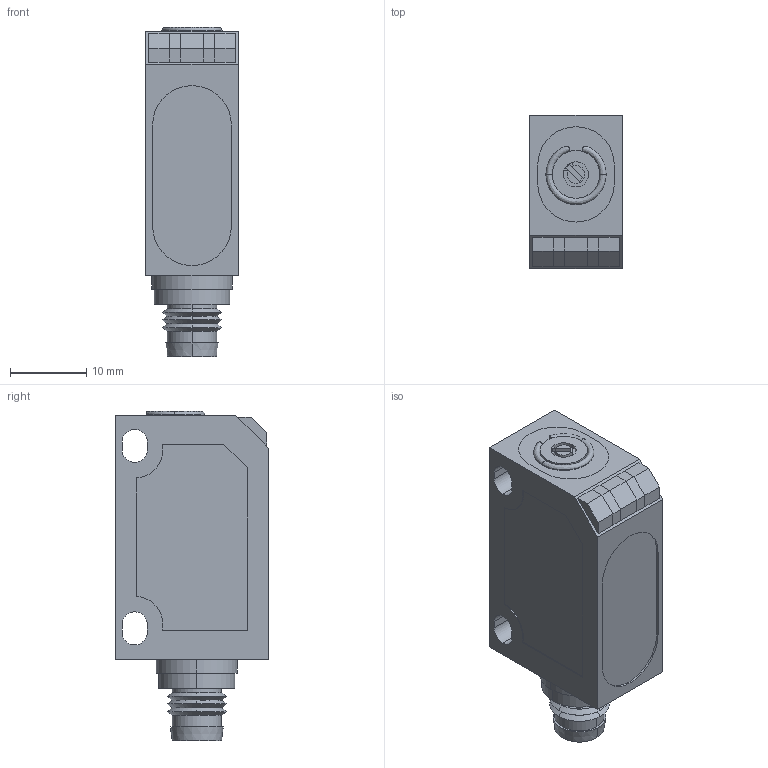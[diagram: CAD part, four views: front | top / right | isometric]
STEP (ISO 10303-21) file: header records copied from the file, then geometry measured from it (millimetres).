
FILE_DESCRIPTION (( 'STEP AP203' ), '1' );
FILE_NAME ('90-28292-002.STEP', '2013-02-16T18:26:18', ( 'Sam' ), ( 'Spade' ), 'SwSTEP 2.0', 'SolidWorks 2002296', '' );
FILE_SCHEMA (( 'CONFIG_CONTROL_DESIGN' ));
Length unit declared in the file: inch
Products named in the file (14): 90-28292-002; Imported10; Imported9; Imported13; Imported12; Imported11; Imported17; Imported16; Imported15; Imported14; Imported20; Imported19; Imported18; Imported21
Assembly tree (13 placements, depth 2):
  90-28292-002
    Imported16
    Imported17
    Imported18
    Imported20
    Imported10
    Imported19
    Imported13
    Imported9
    Imported15
    Imported12
    Imported21
    Imported11
    Imported14
Bounding box: 12.06 x 20.07 x 43.08 mm (x, y, z)
Volume: 7757.1 mm3; surface area: 4673.4 mm2
Topology: 15 solids, 15 shells, 178 faces, 410 edges, 264 vertices
Faces by surface type: plane 93, cylinder 55, cone 19, bspline 11
Entity records: 6737 total; most frequent: CARTESIAN_POINT 1112, DIRECTION 912, ORIENTED_EDGE 804, EDGE_CURVE 402, AXIS2_PLACEMENT_3D 332, VERTEX_POINT 264, VECTOR 248, LINE 248
